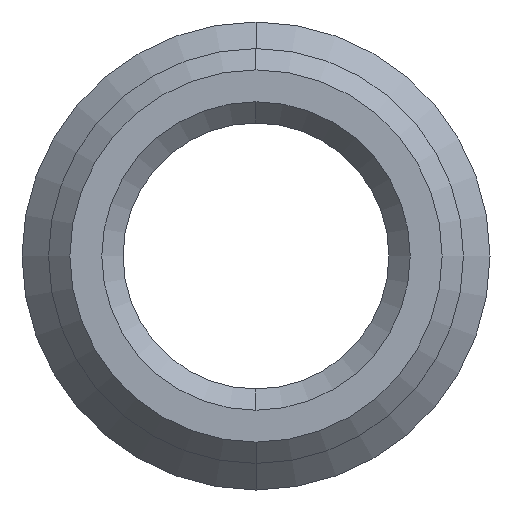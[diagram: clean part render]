
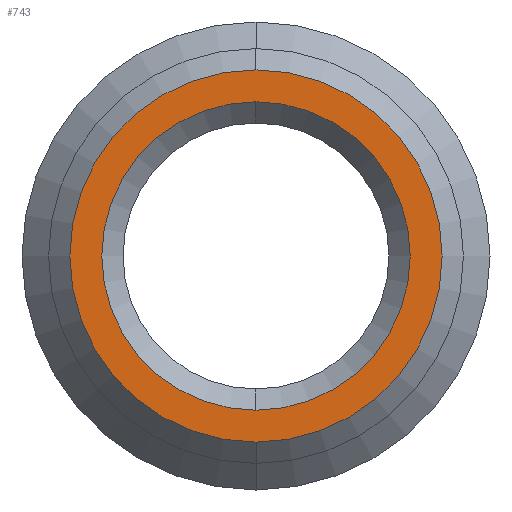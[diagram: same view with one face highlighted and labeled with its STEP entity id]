
A CAD part, left-side view. The second image highlights one B-rep face of the part: STEP entity #743.
In plain terms, the highlighted planar face has unit normal (-1, 0, 0).
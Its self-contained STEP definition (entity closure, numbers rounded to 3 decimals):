
#15 = EDGE_LOOP ( 'NONE', ( #944, #291 ) ) ;
#18 = CARTESIAN_POINT ( 'NONE',  ( -2.85, 0., -1.75 ) ) ;
#26 = DIRECTION ( 'NONE',  ( 1., 0., 0. ) ) ;
#47 = CARTESIAN_POINT ( 'NONE',  ( -2.85, 0., 0. ) ) ;
#88 = VERTEX_POINT ( 'NONE', #718 ) ;
#100 = DIRECTION ( 'NONE',  ( 0., 0., 1. ) ) ;
#103 = CIRCLE ( 'NONE', #443, 1.45 ) ;
#119 = PLANE ( 'NONE',  #246 ) ;
#130 = EDGE_CURVE ( 'NONE', #444, #88, #905, .T. ) ;
#151 = CARTESIAN_POINT ( 'NONE',  ( -2.85, 0., 0. ) ) ;
#178 = CIRCLE ( 'NONE', #1280, 1.75 ) ;
#191 = EDGE_LOOP ( 'NONE', ( #991, #970 ) ) ;
#246 = AXIS2_PLACEMENT_3D ( 'NONE', #317, #1111, #306 ) ;
#291 = ORIENTED_EDGE ( 'NONE', *, *, #1197, .F. ) ;
#306 = DIRECTION ( 'NONE',  ( 0., 0., 1. ) ) ;
#317 = CARTESIAN_POINT ( 'NONE',  ( -2.85, 1.95, 0. ) ) ;
#320 = DIRECTION ( 'NONE',  ( 0., 0., 1. ) ) ;
#343 = AXIS2_PLACEMENT_3D ( 'NONE', #47, #26, #832 ) ;
#351 = EDGE_CURVE ( 'NONE', #88, #444, #103, .T. ) ;
#363 = CARTESIAN_POINT ( 'NONE',  ( -2.85, 0., 1.75 ) ) ;
#422 = DIRECTION ( 'NONE',  ( 1., 0., 0. ) ) ;
#443 = AXIS2_PLACEMENT_3D ( 'NONE', #151, #1055, #1137 ) ;
#444 = VERTEX_POINT ( 'NONE', #1120 ) ;
#497 = CARTESIAN_POINT ( 'NONE',  ( -2.85, 0., 0. ) ) ;
#556 = AXIS2_PLACEMENT_3D ( 'NONE', #1012, #422, #100 ) ;
#718 = CARTESIAN_POINT ( 'NONE',  ( -2.85, 0., 1.45 ) ) ;
#743 = ADVANCED_FACE ( 'NONE', ( #1199, #1103 ), #119, .F. ) ;
#774 = CIRCLE ( 'NONE', #556, 1.75 ) ;
#815 = VERTEX_POINT ( 'NONE', #18 ) ;
#832 = DIRECTION ( 'NONE',  ( 0., 0., -1. ) ) ;
#905 = CIRCLE ( 'NONE', #343, 1.45 ) ;
#906 = VERTEX_POINT ( 'NONE', #363 ) ;
#944 = ORIENTED_EDGE ( 'NONE', *, *, #1177, .F. ) ;
#970 = ORIENTED_EDGE ( 'NONE', *, *, #130, .T. ) ;
#991 = ORIENTED_EDGE ( 'NONE', *, *, #351, .T. ) ;
#1012 = CARTESIAN_POINT ( 'NONE',  ( -2.85, 0., 0. ) ) ;
#1055 = DIRECTION ( 'NONE',  ( 1., 0., 0. ) ) ;
#1103 = FACE_OUTER_BOUND ( 'NONE', #15, .T. ) ;
#1111 = DIRECTION ( 'NONE',  ( 1., 0., 0. ) ) ;
#1116 = DIRECTION ( 'NONE',  ( 1., 0., 0. ) ) ;
#1120 = CARTESIAN_POINT ( 'NONE',  ( -2.85, 0., -1.45 ) ) ;
#1137 = DIRECTION ( 'NONE',  ( 0., 0., -1. ) ) ;
#1177 = EDGE_CURVE ( 'NONE', #906, #815, #178, .T. ) ;
#1197 = EDGE_CURVE ( 'NONE', #815, #906, #774, .T. ) ;
#1199 = FACE_BOUND ( 'NONE', #191, .T. ) ;
#1280 = AXIS2_PLACEMENT_3D ( 'NONE', #497, #1116, #320 ) ;
